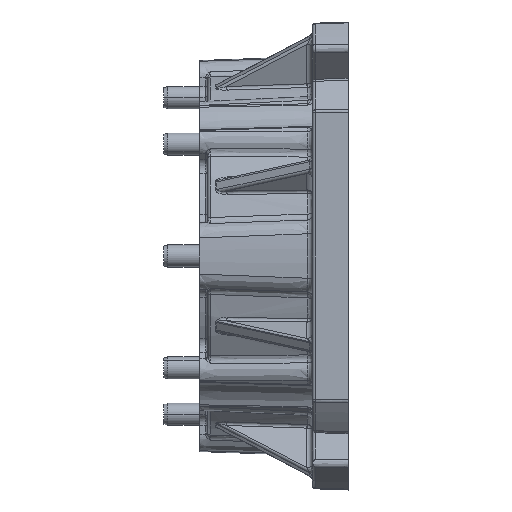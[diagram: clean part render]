
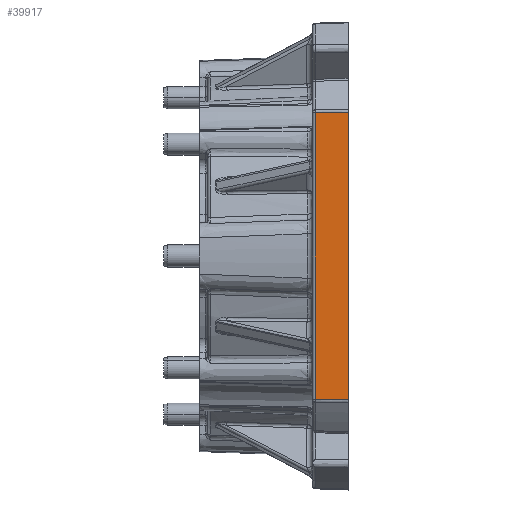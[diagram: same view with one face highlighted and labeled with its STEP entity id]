
A CAD part, front view. The second image highlights one B-rep face of the part: STEP entity #39917.
In plain terms, the highlighted planar face has unit normal (-0.035, -0.999, 0).
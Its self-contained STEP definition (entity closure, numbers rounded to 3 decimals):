
#2141 = CARTESIAN_POINT ( 'NONE',  ( 54.75, -84.974, -52.098 ) ) ;
#2763 = LINE ( 'NONE', #26005, #54784 ) ;
#4409 = LINE ( 'NONE', #16229, #27354 ) ;
#6405 = CARTESIAN_POINT ( 'NONE',  ( 44.848, -84.628, -51.999 ) ) ;
#7361 = CARTESIAN_POINT ( 'NONE',  ( 42.715, -84.554, 51.977 ) ) ;
#7750 = CARTESIAN_POINT ( 'NONE',  ( 52.871, -84.908, 52.08 ) ) ;
#9459 = B_SPLINE_CURVE_WITH_KNOTS ( 'NONE', 3,
 ( #41960, #7750, #53796, #71372, #12287, #65264, #7361 ),
 .UNSPECIFIED., .F., .F.,
 ( 4, 3, 4 ),
 ( 0.001, 0.006, 0.013 ),
 .UNSPECIFIED. ) ;
#10628 = VERTEX_POINT ( 'NONE', #37559 ) ;
#11620 = CARTESIAN_POINT ( 'NONE',  ( 55.5, -85., -72.778 ) ) ;
#12261 = ORIENTED_EDGE ( 'NONE', *, *, #43760, .T. ) ;
#12287 = CARTESIAN_POINT ( 'NONE',  ( 46.981, -84.702, 52.02 ) ) ;
#16229 = CARTESIAN_POINT ( 'NONE',  ( 42.715, -84.554, -72.778 ) ) ;
#20072 = EDGE_CURVE ( 'NONE', #70434, #10628, #9459, .T. ) ;
#20822 = FACE_OUTER_BOUND ( 'NONE', #56832, .T. ) ;
#22233 = EDGE_CURVE ( 'NONE', #27057, #39655, #46358, .T. ) ;
#25770 = CARTESIAN_POINT ( 'NONE',  ( 52.871, -84.908, -52.08 ) ) ;
#26005 = CARTESIAN_POINT ( 'NONE',  ( 54.75, -84.974, -72.778 ) ) ;
#27057 = VERTEX_POINT ( 'NONE', #71996 ) ;
#27354 = VECTOR ( 'NONE', #51594, 1000. ) ;
#29602 = CARTESIAN_POINT ( 'NONE',  ( 46.981, -84.702, -52.02 ) ) ;
#34801 = DIRECTION ( 'NONE',  ( 0.035, 0.999, 0. ) ) ;
#36884 = CARTESIAN_POINT ( 'NONE',  ( 54.75, -84.974, -52.098 ) ) ;
#37171 = CARTESIAN_POINT ( 'NONE',  ( 50.992, -84.843, -52.061 ) ) ;
#37559 = CARTESIAN_POINT ( 'NONE',  ( 42.715, -84.554, 51.977 ) ) ;
#39655 = VERTEX_POINT ( 'NONE', #36884 ) ;
#39917 = ADVANCED_FACE ( 'NONE', ( #20822 ), #68063, .F. ) ;
#41960 = CARTESIAN_POINT ( 'NONE',  ( 54.75, -84.974, 52.098 ) ) ;
#42643 = ORIENTED_EDGE ( 'NONE', *, *, #20072, .T. ) ;
#43760 = EDGE_CURVE ( 'NONE', #10628, #27057, #4409, .T. ) ;
#45617 = ORIENTED_EDGE ( 'NONE', *, *, #71617, .F. ) ;
#45879 = DIRECTION ( 'NONE',  ( -0.999, 0.035, 0. ) ) ;
#46358 = B_SPLINE_CURVE_WITH_KNOTS ( 'NONE', 3,
 ( #58192, #6405, #29602, #52802, #37171, #25770, #2141 ),
 .UNSPECIFIED., .F., .F.,
 ( 4, 3, 4 ),
 ( 0., 0.006, 0.012 ),
 .UNSPECIFIED. ) ;
#49595 = DIRECTION ( 'NONE',  ( 0., 0., -1. ) ) ;
#51594 = DIRECTION ( 'NONE',  ( 0., 0., -1. ) ) ;
#52802 = CARTESIAN_POINT ( 'NONE',  ( 49.113, -84.777, -52.042 ) ) ;
#53796 = CARTESIAN_POINT ( 'NONE',  ( 50.992, -84.843, 52.061 ) ) ;
#54784 = VECTOR ( 'NONE', #49595, 1000. ) ;
#56832 = EDGE_LOOP ( 'NONE', ( #45617, #42643, #12261, #60950 ) ) ;
#58192 = CARTESIAN_POINT ( 'NONE',  ( 42.715, -84.554, -51.977 ) ) ;
#60950 = ORIENTED_EDGE ( 'NONE', *, *, #22233, .T. ) ;
#65264 = CARTESIAN_POINT ( 'NONE',  ( 44.848, -84.628, 51.999 ) ) ;
#68063 = PLANE ( 'NONE',  #71335 ) ;
#69615 = CARTESIAN_POINT ( 'NONE',  ( 54.75, -84.974, 52.098 ) ) ;
#70434 = VERTEX_POINT ( 'NONE', #69615 ) ;
#71335 = AXIS2_PLACEMENT_3D ( 'NONE', #11620, #34801, #45879 ) ;
#71372 = CARTESIAN_POINT ( 'NONE',  ( 49.113, -84.777, 52.042 ) ) ;
#71617 = EDGE_CURVE ( 'NONE', #70434, #39655, #2763, .T. ) ;
#71996 = CARTESIAN_POINT ( 'NONE',  ( 42.715, -84.554, -51.977 ) ) ;
